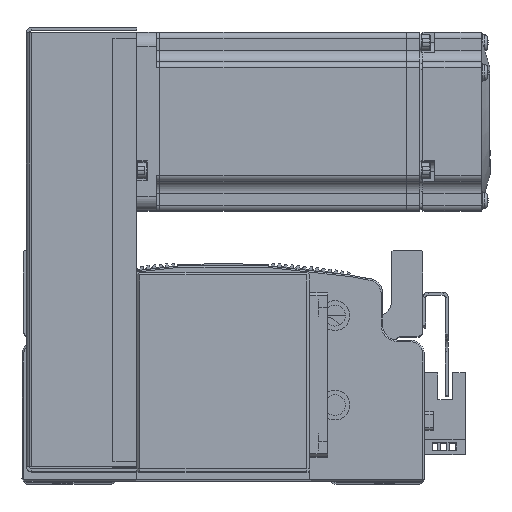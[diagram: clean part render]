
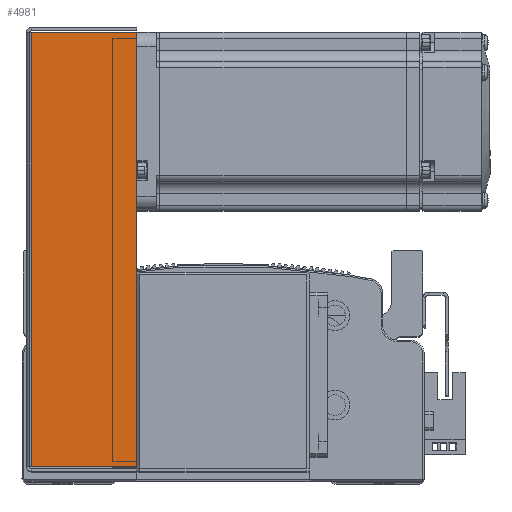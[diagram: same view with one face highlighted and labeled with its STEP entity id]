
A CAD part, top view. The second image highlights one B-rep face of the part: STEP entity #4981.
In plain terms, the highlighted planar face has unit normal (0, 0, 1).
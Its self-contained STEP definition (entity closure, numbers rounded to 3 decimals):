
#491 = VERTEX_POINT ( 'NONE', #2851 ) ;
#537 = VERTEX_POINT ( 'NONE', #11134 ) ;
#571 = VERTEX_POINT ( 'NONE', #11125 ) ;
#1802 = VERTEX_POINT ( 'NONE', #11746 ) ;
#2851 = CARTESIAN_POINT ( 'NONE',  ( -72.793, 36., 34.5 ) ) ;
#4981 = ADVANCED_FACE ( 'NONE', ( #20612 ), #56729, .F. ) ;
#11125 = CARTESIAN_POINT ( 'NONE',  ( 72.793, 0.737, 34.5 ) ) ;
#11134 = CARTESIAN_POINT ( 'NONE',  ( 72.793, 36., 34.5 ) ) ;
#11746 = CARTESIAN_POINT ( 'NONE',  ( -72.793, 0.737, 34.5 ) ) ;
#20612 = FACE_OUTER_BOUND ( 'NONE', #58444, .T. ) ;
#21249 = ORIENTED_EDGE ( 'NONE', *, *, #74804, .T. ) ;
#21251 = ORIENTED_EDGE ( 'NONE', *, *, #74749, .F. ) ;
#21271 = ORIENTED_EDGE ( 'NONE', *, *, #74719, .F. ) ;
#21403 = ORIENTED_EDGE ( 'NONE', *, *, #74817, .T. ) ;
#38116 = AXIS2_PLACEMENT_3D ( 'NONE', #56743, #56745, #56747 ) ;
#50168 = VECTOR ( 'NONE', #54945, 1000. ) ;
#50209 = LINE ( 'NONE', #54943, #50168 ) ;
#50474 = LINE ( 'NONE', #55045, #50548 ) ;
#50548 = VECTOR ( 'NONE', #55015, 1000. ) ;
#54943 = CARTESIAN_POINT ( 'NONE',  ( -72.793, 0., 34.5 ) ) ;
#54945 = DIRECTION ( 'NONE',  ( 0., 1., 0. ) ) ;
#55015 = DIRECTION ( 'NONE',  ( -1., 0., 0. ) ) ;
#55045 = CARTESIAN_POINT ( 'NONE',  ( -74.5, 0.737, 34.5 ) ) ;
#55296 = CARTESIAN_POINT ( 'NONE',  ( 72.793, 0., 34.5 ) ) ;
#55383 = DIRECTION ( 'NONE',  ( 0., 1., 0. ) ) ;
#55509 = DIRECTION ( 'NONE',  ( -1., 0., 0. ) ) ;
#55517 = CARTESIAN_POINT ( 'NONE',  ( 0., 36., 34.5 ) ) ;
#56729 = PLANE ( 'NONE',  #38116 ) ;
#56743 = CARTESIAN_POINT ( 'NONE',  ( 0., 0., 34.5 ) ) ;
#56745 = DIRECTION ( 'NONE',  ( 0., 0., -1. ) ) ;
#56747 = DIRECTION ( 'NONE',  ( -1., 0., 0. ) ) ;
#58444 = EDGE_LOOP ( 'NONE', ( #21251, #21249, #21403, #21271 ) ) ;
#61473 = LINE ( 'NONE', #55517, #61498 ) ;
#61496 = VECTOR ( 'NONE', #55383, 1000. ) ;
#61498 = VECTOR ( 'NONE', #55509, 1000. ) ;
#61512 = LINE ( 'NONE', #55296, #61496 ) ;
#74719 = EDGE_CURVE ( 'NONE', #1802, #491, #50209, .T. ) ;
#74749 = EDGE_CURVE ( 'NONE', #571, #1802, #50474, .T. ) ;
#74804 = EDGE_CURVE ( 'NONE', #571, #537, #61512, .T. ) ;
#74817 = EDGE_CURVE ( 'NONE', #537, #491, #61473, .T. ) ;
